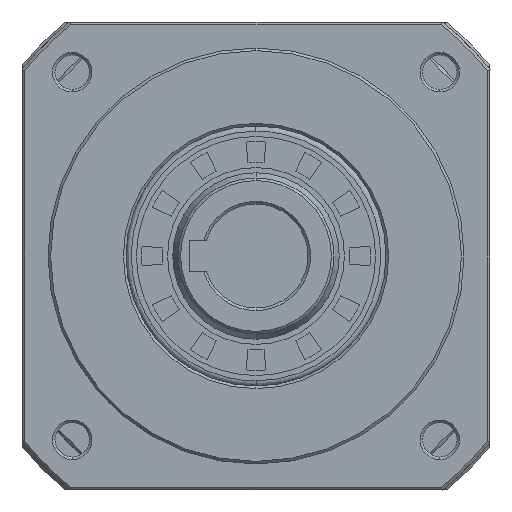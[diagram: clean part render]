
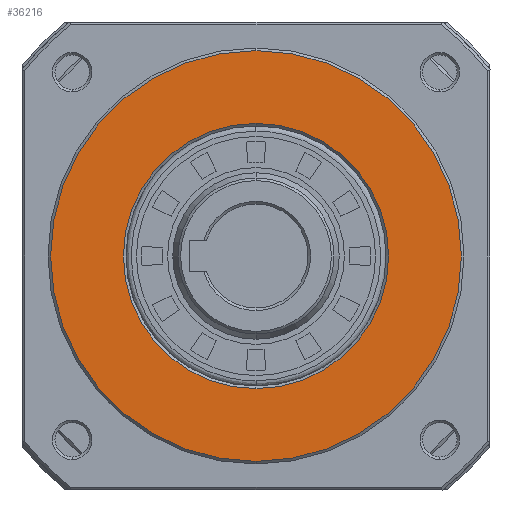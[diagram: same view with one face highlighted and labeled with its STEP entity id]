
A CAD part, left-side view. The second image highlights one B-rep face of the part: STEP entity #36216.
In plain terms, the highlighted planar face has unit normal (-1, 0, 0).
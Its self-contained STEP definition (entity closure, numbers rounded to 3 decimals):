
#2351 = DIRECTION ( 'NONE',  ( -1., 0., 0. ) ) ;
#3958 = CARTESIAN_POINT ( 'NONE',  ( 0., 0., 0. ) ) ;
#8897 = CARTESIAN_POINT ( 'NONE',  ( 0., -39.974, 39.974 ) ) ;
#11966 = EDGE_LOOP ( 'NONE', ( #67603, #80322 ) ) ;
#15234 = EDGE_CURVE ( 'NONE', #24925, #29258, #35202, .T. ) ;
#18378 = CARTESIAN_POINT ( 'NONE',  ( 0., 0., 0. ) ) ;
#20510 = CIRCLE ( 'NONE', #24669, 39.5 ) ;
#22102 = ORIENTED_EDGE ( 'NONE', *, *, #38263, .F. ) ;
#23152 = VERTEX_POINT ( 'NONE', #65363 ) ;
#24669 = AXIS2_PLACEMENT_3D ( 'NONE', #42632, #2351, #56265 ) ;
#24925 = VERTEX_POINT ( 'NONE', #35182 ) ;
#25271 = FACE_BOUND ( 'NONE', #67252, .T. ) ;
#29258 = VERTEX_POINT ( 'NONE', #54812 ) ;
#30799 = EDGE_CURVE ( 'NONE', #84985, #23152, #72565, .T. ) ;
#32121 = DIRECTION ( 'NONE',  ( 0., 0., 1. ) ) ;
#34620 = ORIENTED_EDGE ( 'NONE', *, *, #30799, .F. ) ;
#35182 = CARTESIAN_POINT ( 'NONE',  ( 0., 0., -39.5 ) ) ;
#35202 = CIRCLE ( 'NONE', #45567, 39.5 ) ;
#36216 = ADVANCED_FACE ( 'NONE', ( #25271, #67870 ), #61952, .F. ) ;
#36934 = DIRECTION ( 'NONE',  ( 0., 0., -1. ) ) ;
#38263 = EDGE_CURVE ( 'NONE', #23152, #84985, #78263, .T. ) ;
#42632 = CARTESIAN_POINT ( 'NONE',  ( 0., 0., 0. ) ) ;
#44239 = EDGE_CURVE ( 'NONE', #29258, #24925, #20510, .T. ) ;
#44393 = CARTESIAN_POINT ( 'NONE',  ( 0., 0., 25.5 ) ) ;
#45567 = AXIS2_PLACEMENT_3D ( 'NONE', #3958, #51636, #78926 ) ;
#49068 = CARTESIAN_POINT ( 'NONE',  ( 0., 0., 0. ) ) ;
#49647 = DIRECTION ( 'NONE',  ( -1., 0., 0. ) ) ;
#51636 = DIRECTION ( 'NONE',  ( -1., 0., 0. ) ) ;
#54812 = CARTESIAN_POINT ( 'NONE',  ( 0., 0., 39.5 ) ) ;
#56265 = DIRECTION ( 'NONE',  ( 0., 0., -1. ) ) ;
#56472 = DIRECTION ( 'NONE',  ( 0., 0., 1. ) ) ;
#61952 = PLANE ( 'NONE',  #69369 ) ;
#65363 = CARTESIAN_POINT ( 'NONE',  ( 0., 0., -25.5 ) ) ;
#67252 = EDGE_LOOP ( 'NONE', ( #34620, #22102 ) ) ;
#67603 = ORIENTED_EDGE ( 'NONE', *, *, #15234, .T. ) ;
#67870 = FACE_OUTER_BOUND ( 'NONE', #11966, .T. ) ;
#69369 = AXIS2_PLACEMENT_3D ( 'NONE', #8897, #77325, #36934 ) ;
#72565 = CIRCLE ( 'NONE', #77541, 25.5 ) ;
#72793 = DIRECTION ( 'NONE',  ( -1., 0., 0. ) ) ;
#77325 = DIRECTION ( 'NONE',  ( 1., 0., 0. ) ) ;
#77541 = AXIS2_PLACEMENT_3D ( 'NONE', #18378, #72793, #32121 ) ;
#77941 = AXIS2_PLACEMENT_3D ( 'NONE', #49068, #49647, #56472 ) ;
#78263 = CIRCLE ( 'NONE', #77941, 25.5 ) ;
#78926 = DIRECTION ( 'NONE',  ( 0., 0., -1. ) ) ;
#80322 = ORIENTED_EDGE ( 'NONE', *, *, #44239, .T. ) ;
#84985 = VERTEX_POINT ( 'NONE', #44393 ) ;
